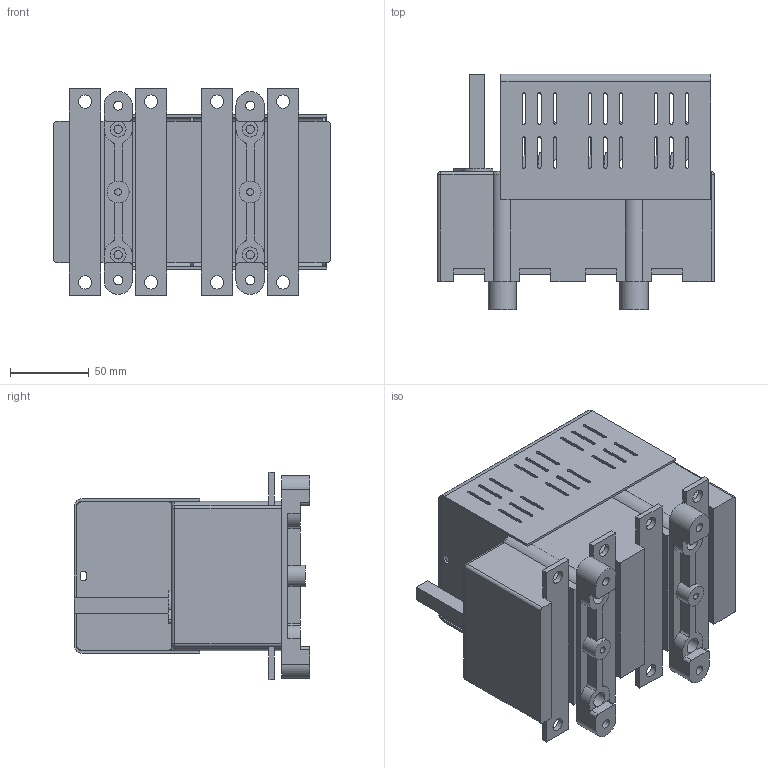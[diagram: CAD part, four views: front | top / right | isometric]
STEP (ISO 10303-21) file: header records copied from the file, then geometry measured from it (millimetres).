
FILE_DESCRIPTION(/* description */ (''),/* implementation_level */ '2;1');
FILE_NAME(/* name */ 'RAB 00 P3 N.stp',/* time_stamp */ '2021-08-19T11:03:45+02:00',/* author */ (''),/* organization */ (''),/* preprocessor_version */ 'ST-DEVELOPER v18.1',/* originating_system */ 'SIEMENS PLM Software NX 1965',/* authorisation */ '');
FILE_SCHEMA (('AUTOMOTIVE_DESIGN { 1 0 10303 214 3 1 1 1 }'));
Length unit declared in the file: millimetre
Products named in the file (1): RAB 00 P3 N_stp
Bounding box: 176 x 150 x 132 mm (x, y, z)
Volume: 1236995.9 mm3; surface area: 219317.9 mm2
Topology: 1 solids, 1 shells, 834 faces, 2350 edges, 1532 vertices
Faces by surface type: plane 544, cylinder 282, torus 4, sphere 4
Full cylindrical faces by diameter (mm): 2.7 x4, 4.3 x2, 5 x6, 5.3 x4, 5.8 x4, 8.5 x8, 10 x8, 14 x2
Entity records: 26674 total; most frequent: CARTESIAN_POINT 4685, ORIENTED_EDGE 4556, DIRECTION 4508, EDGE_CURVE 2278, LINE 1682, VECTOR 1682, VERTEX_POINT 1502, AXIS2_PLACEMENT_3D 1413
